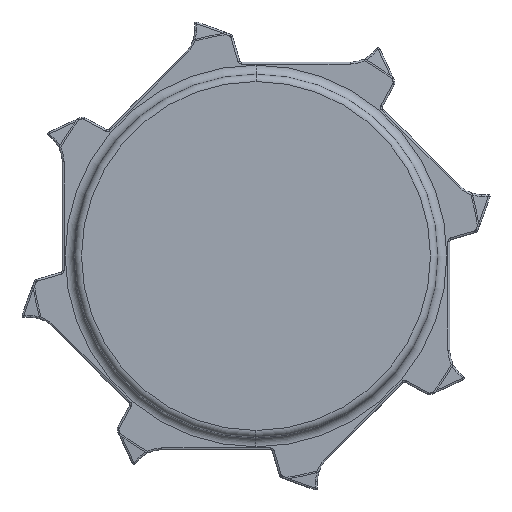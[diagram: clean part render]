
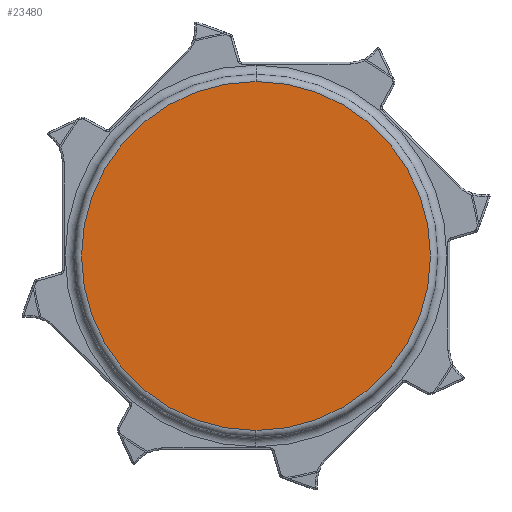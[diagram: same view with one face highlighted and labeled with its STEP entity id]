
A CAD part, left-side view. The second image highlights one B-rep face of the part: STEP entity #23480.
In plain terms, the highlighted planar face has unit normal (-1, 0, 0).
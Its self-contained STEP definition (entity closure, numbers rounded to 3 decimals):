
#6774=CARTESIAN_POINT('',(-21.15,0.,0.));
#6775=DIRECTION('',(-1.,0.,0.));
#6776=DIRECTION('',(0.,0.,1.));
#6777=AXIS2_PLACEMENT_3D('',#6774,#6775,#6776);
#6782=CARTESIAN_POINT('',(-21.15,0.,0.));
#6783=DIRECTION('',(1.,0.,0.));
#6784=DIRECTION('',(0.,0.,1.));
#6785=AXIS2_PLACEMENT_3D('',#6782,#6783,#6784);
#17365=CARTESIAN_POINT('',(-21.15,0.,48.));
#17366=VERTEX_POINT('',#17365);
#17381=CARTESIAN_POINT('',(-21.15,0.,-48.));
#17382=VERTEX_POINT('',#17381);
#23471=CARTESIAN_POINT('',(-21.15,0.,0.));
#23472=DIRECTION('',(1.,0.,0.));
#23473=DIRECTION('',(0.,0.,-1.));
#23474=AXIS2_PLACEMENT_3D('',#23471,#23472,#23473);
#23475=PLANE('',#23474);
#23476=ORIENTED_EDGE('',*,*,#23450,.F.);
#23477=ORIENTED_EDGE('',*,*,#23466,.T.);
#23478=EDGE_LOOP('',(#23476,#23477));
#23479=FACE_OUTER_BOUND('',#23478,.F.);
#6778=CIRCLE('',#6777,48.);
#6786=CIRCLE('',#6785,48.);
#23450=EDGE_CURVE('',#17366,#17382,#6778,.T.);
#23466=EDGE_CURVE('',#17366,#17382,#6786,.T.);
#23480=ADVANCED_FACE('',(#23479),#23475,.F.);
